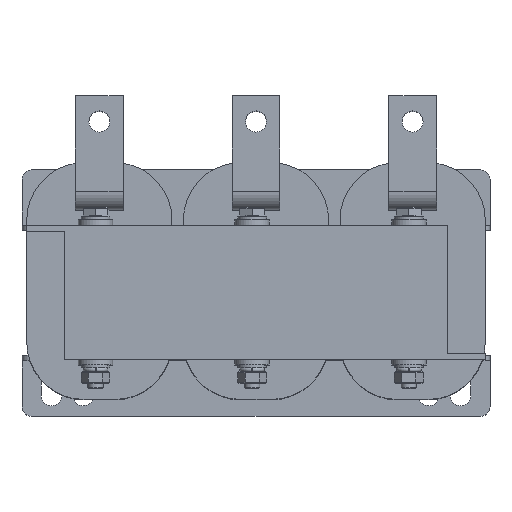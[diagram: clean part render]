
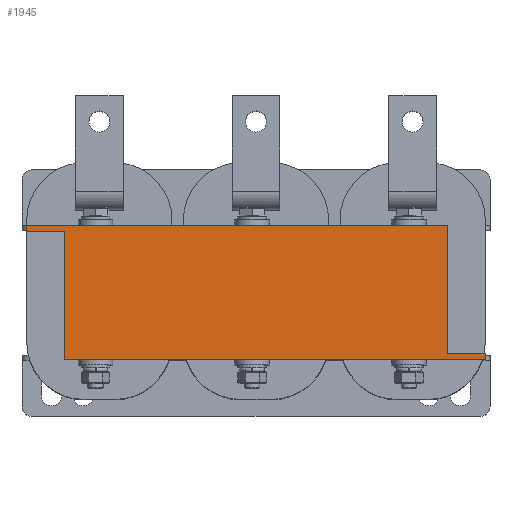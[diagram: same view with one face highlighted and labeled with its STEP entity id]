
A CAD part, top view. The second image highlights one B-rep face of the part: STEP entity #1945.
In plain terms, the highlighted planar face has unit normal (0, 0, 1).
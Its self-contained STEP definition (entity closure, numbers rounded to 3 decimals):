
#1945=ADVANCED_FACE('',(#2583),#2585,.T.);
#2583=FACE_BOUND('',#2584,.T.);
#2584=EDGE_LOOP('',(#3558,#3559,#3560,#3561,#3562,#3563,#3564,#3565));
#2585=PLANE('',#2586);
#2586=AXIS2_PLACEMENT_3D('',#2587,#2588,#2589);
#2587=CARTESIAN_POINT('',(0.,0.,42.));
#2588=DIRECTION('',(0.,0.,1.));
#2589=DIRECTION('',(-1.,0.,0.));
#3558=ORIENTED_EDGE('',*,*,#4075,.T.);
#3559=ORIENTED_EDGE('',*,*,#4057,.T.);
#3560=ORIENTED_EDGE('',*,*,#4076,.F.);
#3561=ORIENTED_EDGE('',*,*,#4048,.F.);
#3562=ORIENTED_EDGE('',*,*,#4077,.T.);
#3563=ORIENTED_EDGE('',*,*,#4038,.T.);
#3564=ORIENTED_EDGE('',*,*,#4078,.F.);
#3565=ORIENTED_EDGE('',*,*,#4029,.F.);
#4029=EDGE_CURVE('',#4458,#4460,#4461,.T.);
#4038=EDGE_CURVE('',#4478,#4476,#4479,.T.);
#4048=EDGE_CURVE('',#4496,#4498,#4499,.T.);
#4057=EDGE_CURVE('',#4516,#4514,#4517,.T.);
#4075=EDGE_CURVE('',#4458,#4516,#4542,.T.);
#4076=EDGE_CURVE('',#4498,#4514,#4543,.T.);
#4077=EDGE_CURVE('',#4496,#4478,#4544,.T.);
#4078=EDGE_CURVE('',#4460,#4476,#4545,.T.);
#4458=VERTEX_POINT('',#5330);
#4460=VERTEX_POINT('',#5334);
#4461=LINE('',#5335,#5336);
#4476=VERTEX_POINT('',#5368);
#4478=VERTEX_POINT('',#5372);
#4479=LINE('',#5373,#5374);
#4496=VERTEX_POINT('',#5413);
#4498=VERTEX_POINT('',#5417);
#4499=LINE('',#5418,#5419);
#4514=VERTEX_POINT('',#5451);
#4516=VERTEX_POINT('',#5455);
#4517=LINE('',#5456,#5457);
#4542=LINE('',#5522,#5523);
#4543=LINE('',#5525,#5526);
#4544=LINE('',#5528,#5529);
#4545=LINE('',#5531,#5532);
#5330=CARTESIAN_POINT('',(-100.,32.,42.));
#5334=CARTESIAN_POINT('',(-120.,32.,42.));
#5335=CARTESIAN_POINT('',(-100.,32.,42.));
#5336=VECTOR('',#5337,1.);
#5337=DIRECTION('',(-1.,0.,0.));
#5368=CARTESIAN_POINT('',(-120.,35.,42.));
#5372=CARTESIAN_POINT('',(100.,35.,42.));
#5373=CARTESIAN_POINT('',(100.,35.,42.));
#5374=VECTOR('',#5375,1.);
#5375=DIRECTION('',(-1.,0.,0.));
#5413=CARTESIAN_POINT('',(100.,-32.,42.));
#5417=CARTESIAN_POINT('',(120.,-32.,42.));
#5418=CARTESIAN_POINT('',(100.,-32.,42.));
#5419=VECTOR('',#5420,1.);
#5420=DIRECTION('',(1.,0.,0.));
#5451=CARTESIAN_POINT('',(120.,-35.,42.));
#5455=CARTESIAN_POINT('',(-100.,-35.,42.));
#5456=CARTESIAN_POINT('',(-100.,-35.,42.));
#5457=VECTOR('',#5458,1.);
#5458=DIRECTION('',(1.,0.,0.));
#5522=CARTESIAN_POINT('',(-100.,32.,42.));
#5523=VECTOR('',#5524,1.);
#5524=DIRECTION('',(0.,-1.,0.));
#5525=CARTESIAN_POINT('',(120.,-32.,42.));
#5526=VECTOR('',#5527,1.);
#5527=DIRECTION('',(0.,-1.,0.));
#5528=CARTESIAN_POINT('',(100.,-32.,42.));
#5529=VECTOR('',#5530,1.);
#5530=DIRECTION('',(0.,1.,0.));
#5531=CARTESIAN_POINT('',(-120.,32.,42.));
#5532=VECTOR('',#5533,1.);
#5533=DIRECTION('',(0.,1.,0.));
